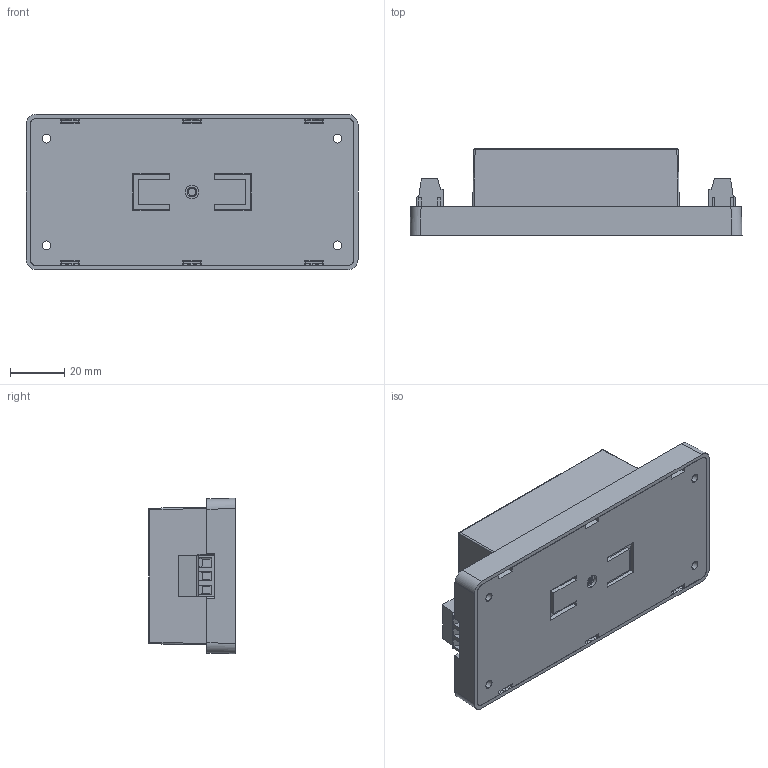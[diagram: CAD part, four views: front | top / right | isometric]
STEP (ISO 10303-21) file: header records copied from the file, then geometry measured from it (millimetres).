
FILE_DESCRIPTION (( 'STEP AP214' ), '1' );
FILE_NAME ('DH15W10-XXST成品圖(V1.4)-1120717.STEP', '2023-09-06T03:21:48', ( 'cincon' ), ( '' ), 'SwSTEP 2.0', 'SolidWorks 2020', '' );
FILE_SCHEMA (( 'AUTOMOTIVE_DESIGN' ));
Length unit declared in the file: millimetre
Products named in the file (1): DH15W10-XXST成品圖(V1.4)-1120717
Bounding box: 122.3 x 32 x 57.3 mm (x, y, z)
Volume: 54076.2 mm3; surface area: 70536.6 mm2
Topology: 1 solids, 8 shells, 1444 faces, 4053 edges, 2644 vertices
Faces by surface type: plane 1149, cylinder 173, cone 46, bspline 38, torus 34, sphere 4
Entity records: 65709 total; most frequent: CARTESIAN_POINT 12982, ORIENTED_EDGE 8094, DIRECTION 6990, EDGE_CURVE 4047, LINE 3276, VECTOR 3276, VERTEX_POINT 2644, AXIS2_PLACEMENT_3D 1857
